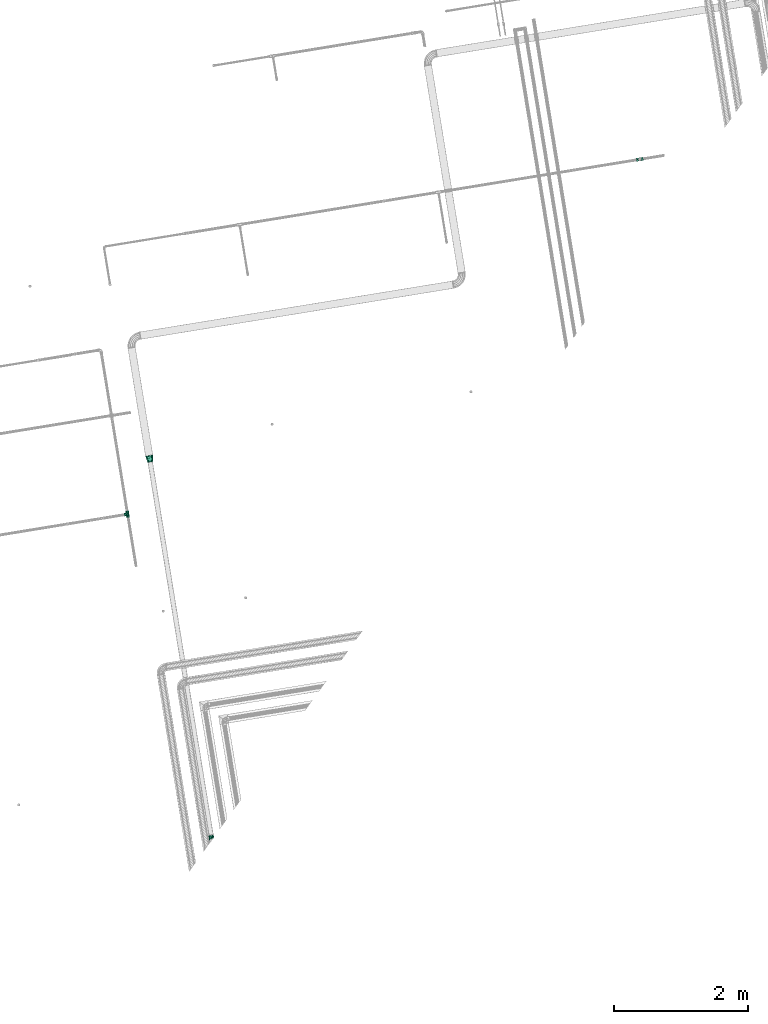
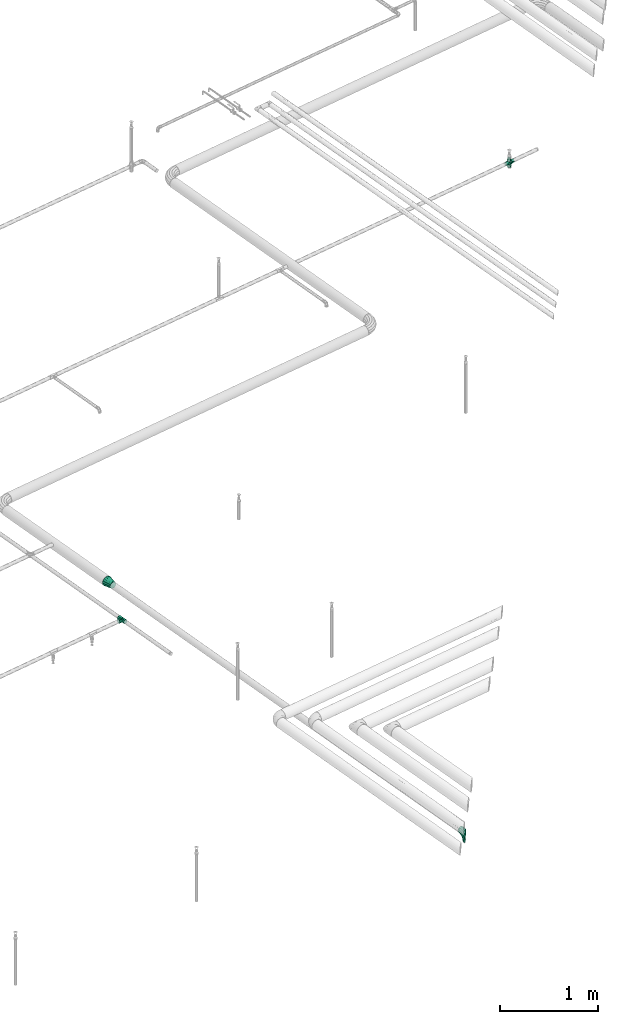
# One storey, part 44 of 46: 4 flow fittings.
"""IFC2X3 building model written with IfcOpenShell, lengths in millimetres."""

from ifc_helpers import new_model, entity, si_unit, converted_unit, derived_unit, direction, frame, origin, origin_with_axes, place, context, subcontext, project, spatial, faceted_brep, source, transform, mapped, material, type_object, element, save


model = new_model("IFC2X3")

# Units and contexts
model_context = context("Model", 3, precision=0.01, world=origin(), true_north=direction((6.12323399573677e-17, 1.0)))
plan_context = context("Plan", 3, precision=1e-05, world=origin_with_axes())
body_context = subcontext(model_context, "Body", "Model", "MODEL_VIEW")
ifc_project = project(units=[converted_unit("PLANEANGLEUNIT", "DEGREE", entity("IfcPositiveLengthMeasure", 0.0174532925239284), si_unit("PLANEANGLEUNIT", "RADIAN"), dimensions=[0, 0, 0, 0, 0, 0, 0]), si_unit("AREAUNIT", "SQUARE_METRE"), si_unit("LENGTHUNIT", "METRE", prefix="MILLI"), si_unit("MASSUNIT", "GRAM", prefix="KILO"), si_unit("POWERUNIT", "WATT"), si_unit("PRESSUREUNIT", "PASCAL", prefix="KILO"), si_unit("FORCEUNIT", "NEWTON", prefix="KILO"), si_unit("ELECTRICVOLTAGEUNIT", "VOLT"), si_unit("ELECTRICCURRENTUNIT", "AMPERE"), si_unit("THERMODYNAMICTEMPERATUREUNIT", "DEGREE_CELSIUS"), si_unit("TIMEUNIT", "SECOND"), si_unit("VOLUMEUNIT", "CUBIC_METRE"), derived_unit("LINEARVELOCITYUNIT", [(si_unit("LENGTHUNIT", "METRE"), 1), (si_unit("TIMEUNIT", "SECOND"), -1)]), derived_unit("VOLUMETRICFLOWRATEUNIT", [(si_unit("VOLUMEUNIT", "CUBIC_METRE"), 1), (si_unit("TIMEUNIT", "SECOND"), -1)]), derived_unit("THERMALTRANSMITTANCEUNIT", [(si_unit("POWERUNIT", "WATT"), 1), (si_unit("THERMODYNAMICTEMPERATUREUNIT", "KELVIN"), -1), (si_unit("AREAUNIT", "SQUARE_METRE"), -1)]), derived_unit("SOUNDPRESSUREUNIT", [(si_unit("PRESSUREUNIT", "PASCAL"), 1)])], contexts=[model_context, plan_context])

# Site, building, storey
site_placement = place(None, frame((-3.09682673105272e-06, 1.93776733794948e-05, 0.0), z_axis=(0.0, 0.0, 1.0), x_axis=(-0.160806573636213, 0.986985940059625, 0.0)))
site = spatial("IfcSite", under=ifc_project, at=site_placement, Name="Default", CompositionType="ELEMENT")
building_placement = place(site_placement, frame((0.0, 0.0, 0.0), z_axis=(0.0, 0.0, 1.0), x_axis=(1.0, -2.77555756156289e-17, 0.0)))
building = spatial("IfcBuilding", under=site, at=building_placement, Name="Bygning (endres i Project Information)", CompositionType="ELEMENT")
storey_placement = place(building_placement, frame((0.0, 0.0, 51360.0000000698), z_axis=(0.0, 0.0, 1.0), x_axis=(1.0, -2.77555756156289e-17, 0.0)))
storey = spatial("IfcBuildingStorey", under=building, at=storey_placement, Name="H01-Nivå D+0,36", CompositionType="ELEMENT", Elevation=51360.0000000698)

# Flow fittings
ifc_material = material(Name="3320.001")
pipe_fitting_type_1 = type_object("IfcPipeFittingType", Name="RS_53_PIF_UN_Cross-EN10241_MC_gen:RS_53_PIF_UN_Cross-EN10241_MC_gen", PredefinedType="NOTDEFINED", material=ifc_material)
shared_shape_1 = source(origin(), body_context, "Body", "Brep", [
    faceted_brep([(-51.0, 18.3750000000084, 6.12499999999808), (-51.0, 12.2500000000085, 12.2499999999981), (-20.1559343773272, 20.155934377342, 9.35728067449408), (-51.0, -19.2143723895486, 5.28562761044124), (-24.4999999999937, -24.4999999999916, 0.0), (-20.1559343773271, -20.155934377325, 9.35728067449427), (-51.0, -24.4999999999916, 0.0), (51.0, -24.4999999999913, 0.0), (51.0, -18.3749999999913, 6.12499999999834), (24.5000000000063, -24.4999999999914, 0.0), (-51.0, 24.5000000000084, 0.0), (-24.4999999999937, 24.5000000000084, 0.0), (51.0, 19.2143724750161, 5.28562752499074), (51.0, 24.5000000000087, 0.0), (24.5000000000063, 24.5000000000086, 0.0), (-51.0, 0.0, 24.4999999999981), (0.0, 0.0, 24.4999999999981), (-15.8118687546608, 15.8118687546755, 18.7145613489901), (15.8118687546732, 15.8118687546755, 18.7145613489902), (51.0, 0.0, 24.4999999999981), (-51.0, -12.2499999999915, 12.2499999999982), (-15.8118687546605, -15.8118687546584, 18.7145613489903), (15.8118687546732, -15.8118687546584, 18.7145613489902), (-51.0, -18.3749999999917, -6.12500000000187), (-51.0, -12.2499999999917, -12.2500000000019), (-20.1559343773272, -20.155934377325, -9.35728067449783), (-8.88917310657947, 8.88917310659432, -20.6788256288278), (-51.0, 6.12500000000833, -18.3750000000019), (-17.7783462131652, 17.77834621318, -16.8576512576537), (-51.0, 12.2500000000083, -12.2500000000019), (51.0, -19.2143723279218, -5.28562767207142), (-51.0, 0.0, -24.5000000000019), (0.0, 0.0, -24.5000000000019), (-15.8118687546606, -15.8118687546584, -18.714561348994), (15.8118687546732, -15.8118687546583, -18.714561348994), (51.0, 0.0, -24.5000000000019), (51.0, 18.3750000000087, -6.12500000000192), (0.0, 51.0, 24.4999999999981), (12.2500000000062, 51.0, 12.2499999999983), (18.3750000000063, 51.0, 6.12499999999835), (24.5000000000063, 51.0, 0.0), (19.2143723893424, 51.0, -5.28562761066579), (12.2500000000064, 51.0, -12.2500000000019), (0.0, 51.0, -24.5000000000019), (-6.12499999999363, 51.0, -18.3750000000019), (-12.2499999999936, 51.0, -12.2500000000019), (-24.4999999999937, 51.0, 0.0), (-19.2143725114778, 51.0, 5.28562748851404), (-12.2499999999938, 51.0, 12.2499999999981), (0.0, -51.0, 24.4999999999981), (20.1559343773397, 20.155934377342, 9.35728067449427), (19.2143725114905, -51.0, 5.28562748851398), (24.5000000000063, -51.0, 0.0), (-24.4999999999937, -51.0, 0.0), (-18.3749999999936, -51.0, 6.12499999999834), (15.8118687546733, 15.8118687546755, -18.7145613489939), (20.1559343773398, 20.1559343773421, -9.35728067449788), (0.0, -51.0, -24.5000000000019), (-19.2143723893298, -51.0, -5.28562761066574), (18.3750000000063, -51.0, -6.12500000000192), (12.2500000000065, -51.0, 12.2499999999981), (-12.2499999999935, -51.0, 12.2499999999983), (-12.2499999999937, -51.0, -12.2500000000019), (12.2500000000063, -51.0, -12.2500000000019), (20.1559343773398, -20.1559343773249, 9.35728067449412), (20.1559343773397, -20.1559343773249, -9.35728067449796), (51.0, 12.2500000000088, 12.2499999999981), (51.0, -12.2499999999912, 12.2499999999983), (51.0, -12.2499999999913, -12.2500000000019), (51.0, 12.2500000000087, -12.2500000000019)], [[[0, 1, 2]], [[3, 4, 5]], [[3, 6, 4]], [[7, 8, 9]], [[10, 0, 11]], [[12, 13, 14]], [[15, 16, 17]], [[18, 16, 19]], [[20, 5, 21]], [[1, 15, 17]], [[2, 11, 0]], [[21, 15, 20]], [[1, 17, 2]], [[16, 15, 21]], [[22, 19, 16]], [[3, 5, 20]], [[23, 24, 25]], [[26, 27, 28]], [[28, 27, 29]], [[6, 23, 4]], [[30, 7, 9]], [[31, 32, 33]], [[34, 32, 35]], [[29, 10, 11]], [[13, 36, 14]], [[28, 29, 11]], [[24, 31, 33]], [[26, 32, 31]], [[24, 33, 25]], [[31, 27, 26]], [[25, 4, 23]], [[37, 38, 39, 40, 41, 42, 43, 44, 45, 46, 47, 48]], [[17, 37, 48]], [[38, 37, 18]], [[48, 2, 17]], [[17, 16, 37]], [[21, 49, 16]], [[50, 14, 39]], [[40, 39, 14]], [[51, 52, 9]], [[47, 2, 48]], [[47, 11, 2]], [[18, 37, 16]], [[22, 16, 49]], [[47, 46, 11]], [[53, 54, 4]], [[39, 38, 50]], [[38, 18, 50]], [[55, 43, 42]], [[44, 43, 26]], [[45, 44, 28]], [[42, 56, 55]], [[55, 32, 43]], [[34, 57, 32]], [[26, 43, 32]], [[45, 28, 11]], [[41, 14, 56]], [[28, 44, 26]], [[41, 56, 42]], [[11, 46, 45]], [[58, 53, 4]], [[41, 40, 14]], [[52, 59, 9]], [[52, 51, 60, 49, 61, 54, 53, 58, 62, 57, 63, 59]], [[22, 49, 60]], [[61, 49, 21]], [[60, 64, 22]], [[5, 4, 54]], [[51, 64, 60]], [[51, 9, 64]], [[54, 61, 5]], [[61, 21, 5]], [[33, 57, 62]], [[65, 9, 59]], [[63, 57, 34]], [[62, 25, 33]], [[33, 32, 57]], [[63, 34, 65]], [[58, 4, 25]], [[58, 25, 62]], [[59, 63, 65]], [[29, 27, 31, 24, 23, 6, 3, 20, 15, 1, 0, 10]], [[13, 12, 66, 19, 67, 8, 7, 30, 68, 35, 69, 36]], [[18, 19, 66]], [[67, 19, 22]], [[66, 50, 18]], [[64, 9, 8]], [[12, 50, 66]], [[12, 14, 50]], [[8, 67, 64]], [[67, 22, 64]], [[34, 35, 68]], [[56, 14, 36]], [[69, 35, 55]], [[68, 65, 34]], [[69, 55, 56]], [[30, 9, 65]], [[55, 35, 32]], [[30, 65, 68]], [[36, 69, 56]]]),
])
flow_fitting_1_placement = place(storey_placement, frame((1006288.36764383, -355017.329195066, 3300.0), z_axis=(-1.0, 2.77555756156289e-17, 0.0), x_axis=(0.0, 0.0, 1.0)))
element("IfcFlowFitting", 1, at=flow_fitting_1_placement, inside=storey, type_object=pipe_fitting_type_1, material=ifc_material, Name="RS_53_PIF_UN_Cross-EN10241_MC_gen:RS_53_PIF_UN_Cross-EN10241_MC_gen", ObjectType="RS_53_PIF_UN_Cross-EN10241_MC_gen:RS_53_PIF_UN_Cross-EN10241_MC_gen", context=body_context, shape_type="MappedRepresentation", body=[
    mapped(shared_shape_1, transform((0.0, 0.0, 0.0), scale=1.0)),
])
pipe_fitting_type_2 = type_object("IfcPipeFittingType", Name="Overgang Konsentrisk:EN 10253-2 P235GH TC1", PredefinedType="NOTDEFINED", material=ifc_material)
shared_shape_2 = source(origin(), body_context, "Body", "Brep", [
    faceted_brep([(2.0, 34.4930762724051, -44.9522521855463), (2.0, 40.411152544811, -40.4111525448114), (2.0, 44.9522521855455, -34.4930762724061), (2.0, 49.4933518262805, -28.5750000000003), (2.0, 52.3480063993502, -21.6832542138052), (2.0, 55.2026609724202, -14.7915084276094), (2.0, 56.17633048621, -7.39575421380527), (2.0, 57.15, 0.0), (2.0, 56.0763757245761, 8.15498600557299), (2.0, 55.2026609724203, 14.791508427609), (2.0, 52.3480063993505, 21.6832542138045), (2.0, 49.4933518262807, 28.575), (2.0, 44.952252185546, 34.4930762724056), (2.0, 40.4111525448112, 40.4111525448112), (2.0, 34.4930762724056, 44.9522521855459), (2.0, 28.5750000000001, 49.4933518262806), (2.0, 21.6832542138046, 52.3480063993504), (2.0, 14.7915084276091, 55.2026609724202), (2.0, 7.39575421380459, 56.1763304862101), (2.0, 0.0, 57.15), (2.0, -7.39575421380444, 56.1763304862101), (2.0, -14.791508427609, 55.2026609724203), (2.0, -21.6832542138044, 52.3480063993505), (2.0, -28.5749999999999, 49.4933518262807), (2.0, -34.4930762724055, 44.952252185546), (2.0, -40.4111525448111, 40.4111525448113), (2.0, -44.9522521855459, 34.4930762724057), (2.0, -49.4933518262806, 28.5750000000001), (2.0, -52.3480063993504, 21.6832542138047), (2.0, -55.2026609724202, 14.7915084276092), (2.0, -56.1763304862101, 7.39575421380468), (2.0, -57.15, 0.0), (2.0, -56.07637572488, -8.15498600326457), (2.0, -55.2026609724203, -14.7915084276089), (2.0, -52.3480063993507, -21.683254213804), (2.0, -49.4933518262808, -28.5749999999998), (2.0, -44.9522521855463, -34.4930762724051), (2.0, -40.4111525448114, -40.411152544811), (2.0, -34.4930762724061, -44.9522521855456), (2.0, -28.5750000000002, -49.4933518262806), (2.0, -21.6832542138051, -52.3480063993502), (2.0, -14.7915084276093, -55.2026609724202), (2.0, -7.39575421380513, -56.17633048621), (2.0, 0.0, -57.15), (2.0, 7.39575421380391, -56.1763304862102), (2.0, 14.7915084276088, -55.2026609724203), (2.0, 21.6832542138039, -52.3480063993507), (2.0, 28.5749999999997, -49.4933518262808), (0.0, 28.5750000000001, 49.4933518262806), (0.0, 34.4930762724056, 44.9522521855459), (0.0, 40.4111525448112, 40.4111525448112), (0.0, 44.952252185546, 34.4930762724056), (0.0, 49.4933518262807, 28.575), (0.0, 52.3480063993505, 21.6832542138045), (0.0, 55.2026609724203, 14.791508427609), (0.0, 56.1763304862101, 7.39575421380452), (0.0, 57.15, 0.0), (0.0, 56.17633048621, -7.39575421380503), (0.0, 55.2026609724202, -14.7915084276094), (0.0, 52.3480063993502, -21.6832542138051), (0.0, 49.4933518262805, -28.5750000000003), (0.0, 44.9522521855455, -34.4930762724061), (0.0, 40.411152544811, -40.4111525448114), (0.0, 34.493076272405, -44.9522521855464), (0.0, 28.5749999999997, -49.4933518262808), (0.0, 21.6832542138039, -52.3480063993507), (0.0, 14.7915084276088, -55.2026609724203), (0.0, 7.39575421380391, -56.1763304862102), (0.0, 0.0, -57.15), (0.0, -7.39575421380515, -56.17633048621), (0.0, -14.7915084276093, -55.2026609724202), (0.0, -21.6832542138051, -52.3480063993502), (0.0, -28.5750000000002, -49.4933518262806), (0.0, -34.4930762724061, -44.9522521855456), (0.0, -40.4111525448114, -40.411152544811), (0.0, -44.9522521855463, -34.4930762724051), (0.0, -49.4933518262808, -28.5749999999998), (0.0, -52.3480063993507, -21.683254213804), (0.0, -55.2026609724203, -14.7915084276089), (0.0, -56.1763304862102, -7.39575421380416), (0.0, -57.15, 0.0), (0.0, -56.1763304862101, 7.39575421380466), (0.0, -55.2026609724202, 14.7915084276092), (0.0, -52.3480063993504, 21.6832542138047), (0.0, -49.4933518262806, 28.5750000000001), (0.0, -44.9522521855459, 34.4930762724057), (0.0, -40.4111525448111, 40.4111525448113), (0.0, -34.4930762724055, 44.952252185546), (0.0, -28.5749999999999, 49.4933518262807), (0.0, -21.6832542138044, 52.3480063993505), (0.0, -14.791508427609, 55.2026609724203), (0.0, -7.39575421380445, 56.1763304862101), (0.0, 0.0, 57.15), (0.0, 7.39575421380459, 56.1763304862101), (0.0, 14.7915084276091, 55.2026609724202), (0.0, 21.6832542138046, 52.3480063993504)], [[[0, 1, 2, 3, 4, 5, 6, 7, 8, 9, 10, 11, 12, 13, 14, 15, 16, 17, 18, 19, 20, 21, 22, 23, 24, 25, 26, 27, 28, 29, 30, 31, 32, 33, 34, 35, 36, 37, 38, 39, 40, 41, 42, 43, 44, 45, 46, 47]], [[48, 49, 50, 51, 52, 53, 54, 55, 56, 57, 58, 59, 60, 61, 62, 63, 64, 65, 66, 67, 68, 69, 70, 71, 72, 73, 74, 75, 76, 77, 78, 79, 80, 81, 82, 83, 84, 85, 86, 87, 88, 89, 90, 91, 92, 93, 94, 95]], [[78, 33, 32, 31, 80, 79]], [[6, 5, 58, 57, 56, 7]], [[78, 77, 76, 35, 34, 33]], [[74, 73, 72, 39, 38, 37]], [[59, 58, 5, 4, 3, 60]], [[76, 75, 74, 37, 36, 35]], [[72, 71, 70, 41, 40, 39]], [[43, 42, 41, 70, 69, 68]], [[68, 67, 66, 45, 44, 43]], [[0, 47, 64, 63, 62, 1]], [[61, 60, 3, 2, 1, 62]], [[66, 65, 64, 47, 46, 45]], [[54, 9, 8, 7, 56, 55]], [[30, 29, 82, 81, 80, 31]], [[54, 53, 52, 11, 10, 9]], [[50, 49, 48, 15, 14, 13]], [[83, 82, 29, 28, 27, 84]], [[52, 51, 50, 13, 12, 11]], [[48, 95, 94, 17, 16, 15]], [[19, 18, 17, 94, 93, 92]], [[92, 91, 90, 21, 20, 19]], [[24, 23, 88, 87, 86, 25]], [[85, 84, 27, 26, 25, 86]], [[90, 89, 88, 23, 22, 21]]]),
    faceted_brep([(98.0, 9.84806466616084, -36.7534776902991), (98.0, 0.0, -38.0500000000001), (98.0, -9.84806466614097, -36.7534776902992), (98.0, -19.0249999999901, -32.9522666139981), (98.0, -26.9054130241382, -26.9054130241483), (98.0, -32.952266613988, -19.0250000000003), (98.0, -36.7534776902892, -9.8480646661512), (98.0, -38.0499999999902, 0.0), (98.0, -36.7534776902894, 9.84806466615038), (98.0, -32.9522666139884, 19.0249999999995), (98.0, -26.9054130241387, 26.9054130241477), (98.0, -19.0249999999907, 32.9522666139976), (98.0, -9.84806466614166, 36.7534776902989), (98.0, 0.0, 38.0499999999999), (98.0, 9.84806466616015, 36.7534776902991), (98.0, 19.0250000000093, 32.9522666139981), (98.0, 26.9054130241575, 26.9054130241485), (98.0, 32.9522666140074, 19.0250000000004), (98.0, 36.7534776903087, 9.84806466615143), (98.0, 38.0500000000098, 0.0), (98.0, 36.7534776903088, -9.84806466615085), (98.0, 32.9522666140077, -19.0249999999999), (98.0, 26.905413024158, -26.9054130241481), (98.0, 19.0250000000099, -32.9522666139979), (100.0, 26.905413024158, -26.9054130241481), (100.0, 32.9522666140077, -19.0249999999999), (100.0, 36.7534776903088, -9.84806466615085), (100.0, 38.0500000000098, 0.0), (100.0, 36.7534776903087, 9.84806466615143), (100.0, 32.9522666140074, 19.0250000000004), (100.0, 26.9054130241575, 26.9054130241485), (100.0, 19.0250000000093, 32.9522666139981), (100.0, 9.84806466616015, 36.7534776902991), (100.0, 0.0, 38.0499999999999), (100.0, -9.84806466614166, 36.7534776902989), (100.0, -19.0249999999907, 32.9522666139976), (100.0, -26.9054130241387, 26.9054130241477), (100.0, -32.9522666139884, 19.0249999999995), (100.0, -36.7534776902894, 9.84806466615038), (100.0, -38.0499999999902, 0.0), (100.0, -36.7534776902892, -9.8480646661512), (100.0, -32.952266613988, -19.0250000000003), (100.0, -26.9054130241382, -26.9054130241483), (100.0, -19.0249999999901, -32.9522666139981), (100.0, -9.84806466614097, -36.7534776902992), (100.0, 0.0, -38.0500000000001), (100.0, 9.84806466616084, -36.7534776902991), (100.0, 19.0250000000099, -32.9522666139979)], [[[0, 1, 2, 3, 4, 5, 6, 7, 8, 9, 10, 11, 12, 13, 14, 15, 16, 17, 18, 19, 20, 21, 22, 23]], [[24, 25, 26, 27, 28, 29, 30, 31, 32, 33, 34, 35, 36, 37, 38, 39, 40, 41, 42, 43, 44, 45, 46, 47]], [[38, 8, 7, 39]], [[37, 9, 8, 38]], [[10, 36, 35, 11]], [[37, 36, 10, 9]], [[11, 35, 34, 12]], [[12, 34, 33, 13]], [[31, 15, 14, 32]], [[30, 16, 15, 31]], [[17, 29, 28, 18]], [[30, 29, 17, 16]], [[18, 28, 27, 19]], [[14, 13, 33, 32]], [[26, 20, 19, 27]], [[25, 21, 20, 26]], [[22, 24, 47, 23]], [[25, 24, 22, 21]], [[23, 47, 46, 0]], [[0, 46, 45, 1]], [[43, 3, 2, 44]], [[42, 4, 3, 43]], [[5, 41, 40, 6]], [[42, 41, 5, 4]], [[6, 40, 39, 7]], [[2, 1, 45, 44]]]),
    faceted_brep([(98.0, 32.9522666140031, -19.0249999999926), (98.0, 35.501133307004, -9.51249999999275), (98.0, 38.0500000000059, 0.0), (98.0, 35.5011333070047, 9.51250000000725), (98.0, 32.9522666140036, 19.0250000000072), (98.0, 25.9886333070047, 25.9886333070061), (98.0, 19.0250000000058, 32.952266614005), (98.0, 9.51250000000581, 35.5011333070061), (98.0, 0.0, 38.0500000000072), (98.0, -9.51249999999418, 35.5011333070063), (98.0, -19.0249999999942, 32.9522666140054), (98.0, -25.9886333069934, 25.9886333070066), (98.0, -32.9522666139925, 19.0250000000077), (98.0, -35.5011333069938, 9.51250000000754), (98.0, -38.0499999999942, 0.0), (98.0, -35.5011333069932, -9.51249999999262), (98.0, -32.9522666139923, -19.0249999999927), (98.0, -25.9886333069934, -25.9886333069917), (98.0, -19.0249999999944, -32.9522666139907), (98.0, -9.51249999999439, -35.5011333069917), (98.0, 0.0, -38.0499999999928), (98.0, 9.51250000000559, -35.5011333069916), (98.0, 19.0250000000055, -32.9522666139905), (98.0, 25.9886333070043, -25.9886333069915), (2.0, 57.1499999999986, 0.0), (2.0, 54.3201854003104, -12.3982278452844), (2.0, 51.4903708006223, -24.7964556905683), (2.0, 43.5614064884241, -34.7390624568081), (2.0, 35.632442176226, -44.6816692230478), (2.0, 24.1747567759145, -50.1993997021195), (2.0, 12.717071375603, -55.7171301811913), (2.0, 0.0, -55.7171301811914), (2.0, -12.7170713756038, -55.7171301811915), (2.0, -24.1747567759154, -50.1993997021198), (2.0, -35.6324421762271, -44.6816692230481), (2.0, -43.5614064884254, -34.7390624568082), (2.0, -51.4903708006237, -24.7964556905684), (2.0, -54.3201854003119, -12.3982278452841), (2.0, -57.1500000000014, 0.0), (2.0, -54.3201854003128, 12.3982278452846), (2.0, -51.4903708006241, 24.796455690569), (2.0, -43.5614064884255, 34.7390624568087), (2.0, -35.6324421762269, 44.6816692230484), (2.0, -24.1747567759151, 50.1993997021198), (2.0, -12.7170713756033, 55.7171301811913), (2.0, 0.0, 55.7171301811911), (2.0, 12.7170713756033, 55.717130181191), (2.0, 24.1747567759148, 50.1993997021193), (2.0, 35.6324421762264, 44.6816692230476), (2.0, 43.5614064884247, 34.739062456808), (2.0, 51.490370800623, 24.7964556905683), (2.0, 54.3201854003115, 12.3982278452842)], [[[0, 1, 2, 3, 4, 5, 6, 7, 8, 9, 10, 11, 12, 13, 14, 15, 16, 17, 18, 19, 20, 21, 22, 23]], [[24, 25, 26, 27, 28, 29, 30, 31, 32, 33, 34, 35, 36, 37, 38, 39, 40, 41, 42, 43, 44, 45, 46, 47, 48, 49, 50, 51]], [[29, 28, 22]], [[1, 26, 25]], [[27, 26, 0]], [[0, 26, 1]], [[37, 36, 15]], [[14, 37, 15]], [[34, 18, 17]], [[20, 32, 31, 30]], [[18, 34, 33]], [[29, 21, 30]], [[33, 19, 18]], [[0, 23, 27]], [[35, 16, 36]], [[37, 14, 38]], [[23, 28, 27]], [[2, 1, 25]], [[33, 32, 19]], [[2, 25, 24]], [[36, 16, 15]], [[16, 35, 17]], [[23, 22, 28]], [[21, 20, 30]], [[32, 20, 19]], [[35, 34, 17]], [[21, 29, 22]], [[43, 42, 10]], [[13, 40, 39]], [[41, 40, 12]], [[12, 40, 13]], [[51, 50, 3]], [[2, 51, 3]], [[48, 6, 5]], [[8, 46, 45, 44]], [[6, 48, 47]], [[43, 9, 44]], [[47, 7, 6]], [[12, 11, 41]], [[49, 4, 50]], [[51, 2, 24]], [[11, 42, 41]], [[14, 13, 39]], [[47, 46, 7]], [[14, 39, 38]], [[50, 4, 3]], [[4, 49, 5]], [[11, 10, 42]], [[9, 8, 44]], [[46, 8, 7]], [[49, 48, 5]], [[9, 43, 10]]]),
])
flow_fitting_2_placement = place(storey_placement, frame((1003110.00225329, -347096.584018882, 3299.95000040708), z_axis=(0.0, 0.0, 1.0), x_axis=(-1.0, 2.77555756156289e-17, 0.0)))
element("IfcFlowFitting", 2, at=flow_fitting_2_placement, inside=storey, type_object=pipe_fitting_type_2, material=ifc_material, Name="Overgang Konsentrisk:EN 10253-2 P235GH TC1", ObjectType="Overgang Konsentrisk:EN 10253-2 P235GH TC1", context=body_context, shape_type="MappedRepresentation", body=[
    mapped(shared_shape_2, transform((0.0, 0.0, 0.0), scale=1.0)),
])
pipe_fitting_type_3 = type_object("IfcPipeFittingType", Name="RS_53_PIF_UN_Tee-Reduced-EN10241_MC_gen:RS_53_PIF_UN_Tee-Reduced-EN10241_MC_gen", PredefinedType="NOTDEFINED", material=ifc_material)
shared_shape_3 = source(origin(), body_context, "Body", "Brep", [
    faceted_brep([(51.0, 24.4999999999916, 0.0), (51.0, 19.5447235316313, 8.58279060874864), (51.0, 12.2499999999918, 21.2176223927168), (51.0, 0.0, 21.2176223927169), (51.0, -12.2500000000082, 21.217622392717), (51.0, -18.3750000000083, 10.6088111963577), (51.0, -24.5000000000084, 0.0), (51.0, -21.4375000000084, -5.30440559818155), (51.0, -18.3750000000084, -10.6088111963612), (51.0, -12.2500000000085, -21.2176223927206), (51.0, 0.0, -21.2176223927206), (51.0, 12.2499999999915, -21.2176223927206), (51.0, 18.3749999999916, -10.6088111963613), (-51.0, -12.2500000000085, -21.2176223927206), (-51.0, -18.3750000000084, -10.6088111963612), (-51.0, -24.5000000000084, 0.0), (-51.0, -21.4375000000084, 5.30440559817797), (-51.0, -18.3750000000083, 10.6088111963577), (-51.0, -12.2500000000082, 21.217622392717), (-51.0, 0.0, 21.2176223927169), (-51.0, 12.2499999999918, 21.2176223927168), (-51.0, 18.3749999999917, 10.6088111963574), (-51.0, 24.4999999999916, 0.0), (-51.0, 18.3749999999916, -10.6088111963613), (-51.0, 12.2499999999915, -21.2176223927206), (-51.0, 0.0, -21.2176223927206), (-19.8526742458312, -19.8526742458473, 8.75676527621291), (-19.115895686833, -19.115895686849, 10.1450468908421), (-13.7317913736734, -13.7317913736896, 20.2900937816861), (21.1391731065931, -21.1391731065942, 8.42882562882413), (24.5000000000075, -24.5000000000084, 0.0), (0.0, 0.0, 24.4999999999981), (17.7783462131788, -17.7783462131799, 16.85765125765), (-24.4999999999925, -24.5000000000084, 0.0), (-21.1391731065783, -21.1391731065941, -8.42882562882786), (-17.7783462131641, -17.7783462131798, -16.8576512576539), (0.0, 0.0, -24.5000000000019), (19.8526741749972, -19.852674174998, -8.75676540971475), (13.7317913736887, -13.7317913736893, -20.2900937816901), (19.1158956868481, -19.1158956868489, -10.1450468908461), (12.2500000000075, -51.0, 21.2176223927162), (0.0, -51.0, 21.2176223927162), (-12.2499999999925, -51.0, 21.2176223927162), (-19.5447234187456, -51.0, 8.58279080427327), (-24.4999999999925, -51.0, 0.0), (-18.3749999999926, -51.0, -10.6088111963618), (-12.2499999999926, -51.0, -21.2176223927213), (0.0, -51.0, -21.2176223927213), (12.2500000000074, -51.0, -21.2176223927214), (19.5447242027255, -51.0, -8.58278944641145), (24.5000000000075, -51.0, 0.0), (18.3750000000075, -51.0, 10.6088111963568)], [[[0, 1, 2, 3, 4, 5, 6, 7, 8, 9, 10, 11, 12]], [[13, 14, 15, 16, 17, 18, 19, 20, 21, 22, 23, 24, 25]], [[2, 1, 0, 22, 21, 20]], [[17, 26, 27, 28]], [[6, 29, 30]], [[2, 20, 31]], [[5, 32, 29]], [[3, 2, 31, 4]], [[26, 17, 16]], [[19, 18, 28]], [[33, 16, 15]], [[28, 18, 17]], [[32, 4, 31]], [[5, 29, 6]], [[33, 26, 16]], [[31, 20, 19]], [[32, 5, 4]], [[28, 31, 19]], [[34, 15, 14]], [[35, 14, 13]], [[36, 13, 25, 24]], [[37, 8, 7]], [[9, 8, 38]], [[14, 35, 34]], [[15, 34, 33]], [[6, 30, 7]], [[13, 36, 35]], [[8, 37, 39, 38]], [[0, 12, 11, 24, 23, 22]], [[38, 10, 9]], [[38, 36, 10]], [[11, 36, 24]], [[30, 37, 7]], [[36, 11, 10]], [[40, 41, 42, 43, 44, 45, 46, 47, 48, 49, 50, 51]], [[45, 33, 34, 35]], [[49, 39, 37, 30]], [[35, 46, 45]], [[33, 45, 44]], [[38, 47, 36]], [[48, 47, 38]], [[48, 39, 49]], [[30, 50, 49]], [[39, 48, 38]], [[47, 46, 36]], [[36, 46, 35]], [[51, 30, 29, 32]], [[32, 40, 51]], [[31, 40, 32]], [[30, 51, 50]], [[28, 41, 31]], [[42, 41, 28]], [[42, 27, 43]], [[42, 28, 27]], [[43, 27, 26, 33]], [[33, 44, 43]], [[41, 40, 31]]]),
])
flow_fitting_3_placement = place(storey_placement, frame((1002299.88520526, -346638.795665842, 3458.79999913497), z_axis=(2.00124221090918e-24, 7.21023494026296e-08, -0.999999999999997), x_axis=(1.0, -2.77555756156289e-17, 0.0)))
element("IfcFlowFitting", 3, at=flow_fitting_3_placement, inside=storey, type_object=pipe_fitting_type_3, material=ifc_material, Name="RS_53_PIF_UN_Tee-Reduced-EN10241_MC_gen:RS_53_PIF_UN_Tee-Reduced-EN10241_MC_gen", ObjectType="RS_53_PIF_UN_Tee-Reduced-EN10241_MC_gen:RS_53_PIF_UN_Tee-Reduced-EN10241_MC_gen", context=body_context, shape_type="MappedRepresentation", body=[
    mapped(shared_shape_3, transform((0.0, 0.0, 0.0), scale=1.0)),
])
pipe_fitting_type_4 = type_object("IfcPipeFittingType", Name="Bend sveist:EN 10253-1 S235 3D ISO", PredefinedType="NOTDEFINED", material=ifc_material)
flow_fitting_4_placement = place(storey_placement, frame((997288.367643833, -347096.584018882, 3299.95000040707), z_axis=(-2.77555756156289e-17, -1.0, 0.0), x_axis=(-1.0, 2.77555756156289e-17, 0.0)))
element("IfcFlowFitting", 4, at=flow_fitting_4_placement, inside=storey, type_object=pipe_fitting_type_4, Name="Bend sveist:EN 10253-1 S235 3D ISO", ObjectType="Bend sveist:EN 10253-1 S235 3D ISO", context=body_context, shape_type="Brep", body=[
    faceted_brep([(-94.4999999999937, -38.050000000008, 0.0), (-94.4999999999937, -32.9522666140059, 19.024999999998), (-55.1150836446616, -26.714308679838, 19.024999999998), (-53.5397973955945, -31.5625412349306, 0.0), (-36.4499705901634, -17.2039585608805, 19.024999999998), (-17.4249705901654, -13.161117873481, 0.0), (14.4721728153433, 59.0927947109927, -31.8971434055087), (15.5272960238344, 72.4163662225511, -32.9522666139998), (13.4686910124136, 59.4188457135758, -32.9522666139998), (16.2664478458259, 94.4999999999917, -33.6914184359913), (0.0, 94.4999999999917, -38.0500000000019), (-4.62515921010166, 65.2978940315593, -38.0500000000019), (-22.7190094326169, 71.1769423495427, -32.9522666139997), (-19.0249999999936, 94.4999999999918, -32.9522666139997), (-35.9646271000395, 75.4807044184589, -19.0250000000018), (-32.9522666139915, 94.4999999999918, -19.0250000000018), (-40.8128596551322, 77.0559906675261, 0.0), (-38.0499999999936, 94.4999999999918, 0.0), (-33.6914184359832, 94.4999999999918, 16.2664478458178), (-36.0631918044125, 75.512730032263, 18.6382212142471), (-41.0142544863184, 55.6403312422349, 23.589283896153), (-50.2258759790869, 33.5618961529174, 32.8009053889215), (-58.3231500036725, 44.7068377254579, 19.0249999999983), (-44.7068377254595, 58.3231500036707, 19.0249999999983), (-61.3195225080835, 48.8309906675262, 0.0), (-48.8309906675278, 61.3195225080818, 0.0), (-58.3231500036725, 44.7068377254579, -19.0250000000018), (-44.7068377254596, 58.3231500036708, -19.0250000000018), (-50.1369080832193, 33.4394423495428, -32.9522666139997), (-33.4394423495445, 50.1369080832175, -32.9522666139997), (-38.954293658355, 18.0478940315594, -38.0500000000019), (-18.0478940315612, 38.9542936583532, -38.0500000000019), (-27.7716792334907, 2.65634571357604, -32.9522666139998), (-2.65634571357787, 27.7716792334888, -32.9522666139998), (1.60002940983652, 12.5744170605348, -19.025000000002), (5.47562608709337, 21.8634558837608, -22.9005966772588), (-19.5854373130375, -8.61104966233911, -19.025000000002), (-59.4188457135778, -13.4686910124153, -32.9522666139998), (-55.1150836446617, -26.7143086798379, -19.025000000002), (-94.4999999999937, -19.0250000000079, -32.9522666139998), (-94.4999999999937, -32.9522666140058, -19.025000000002), (-94.4999999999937, 0.0, -38.0500000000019), (-65.2978940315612, 4.62515921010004, -38.0500000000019), (-94.4999999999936, 19.0249999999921, -32.9522666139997), (-71.1769423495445, 22.7190094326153, -32.9522666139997), (-94.4999999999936, 32.9522666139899, -19.0250000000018), (-75.4807044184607, 35.964627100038, -19.0250000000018), (-94.4999999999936, 38.049999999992, 0.0), (-77.0559906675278, 40.8128596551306, 0.0), (-94.4999999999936, 32.9522666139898, 19.0249999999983), (-75.4807044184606, 35.9646271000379, 19.0249999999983), (-94.4999999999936, 19.0249999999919, 32.9522666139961), (-71.1769423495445, 22.7190094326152, 32.9522666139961), (-94.4999999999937, 0.0, 38.0499999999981), (-65.2978940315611, 4.62515921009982, 38.0499999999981), (-94.4999999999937, -19.0250000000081, 32.9522666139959), (-59.4188457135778, -13.4686910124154, 32.9522666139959), (-50.3772372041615, 33.3169885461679, 32.9522666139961), (-55.4749705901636, 9.63018869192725, 38.0499999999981), (-50.3772372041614, -8.86176137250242, 32.9522666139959), (-36.4499705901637, 74.5281641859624, 19.0249999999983), (-16.7028036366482, -12.5786545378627, -0.722166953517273)], [[[0, 1, 2, 3]], [[4, 5, 3, 2]], [[6, 7, 8]], [[7, 9, 10, 11, 8]], [[12, 11, 10, 13]], [[14, 12, 13, 15]], [[16, 14, 15, 17]], [[18, 19, 16, 17]], [[20, 21, 22, 23]], [[22, 24, 25, 23]], [[24, 26, 27, 25]], [[26, 28, 29, 27]], [[28, 30, 31, 29]], [[30, 32, 33, 31]], [[34, 35, 33, 32, 36]], [[37, 38, 36, 32]], [[39, 40, 38, 37]], [[41, 39, 37, 42]], [[43, 41, 42, 44]], [[45, 43, 44, 46]], [[47, 45, 46, 48]], [[49, 47, 48, 50]], [[51, 49, 50, 52]], [[53, 51, 52, 54]], [[55, 53, 54, 56]], [[42, 37, 32, 30]], [[44, 42, 30, 28]], [[46, 44, 28, 26]], [[48, 46, 26, 24]], [[50, 48, 24, 22]], [[21, 57, 52, 50, 22]], [[57, 58, 54, 52]], [[58, 59, 56, 54]], [[60, 20, 23]], [[19, 60, 23, 25, 16]], [[25, 27, 14, 16]], [[27, 29, 12, 14]], [[29, 31, 11, 12]], [[31, 33, 8, 11]], [[35, 6, 8, 33]], [[61, 34, 36]], [[5, 61, 36, 38, 3]], [[59, 4, 2, 56]], [[40, 0, 3, 38]], [[1, 55, 56, 2]], [[40, 39, 41, 43, 45, 47, 49, 51, 53, 55, 1, 0]], [[9, 18, 17, 15, 13, 10]], [[59, 58, 57, 21, 20, 60, 19, 18, 9, 7, 6, 35, 34, 61, 5, 4]]], orient=[[False], [False], [False], [False], [False], [False], [False], [False], [False], [False], [False], [False], [False], [False], [False], [False], [False], [False], [False], [False], [False], [False], [False], [False], [False], [False], [False], [False], [False], [False], [False], [False], [False], [False], [False], [False], [False], [False], [False], [False], [False], [False], [False], [False], [False], [False], [False], [False]]),
])

save(model, "model.ifc")
